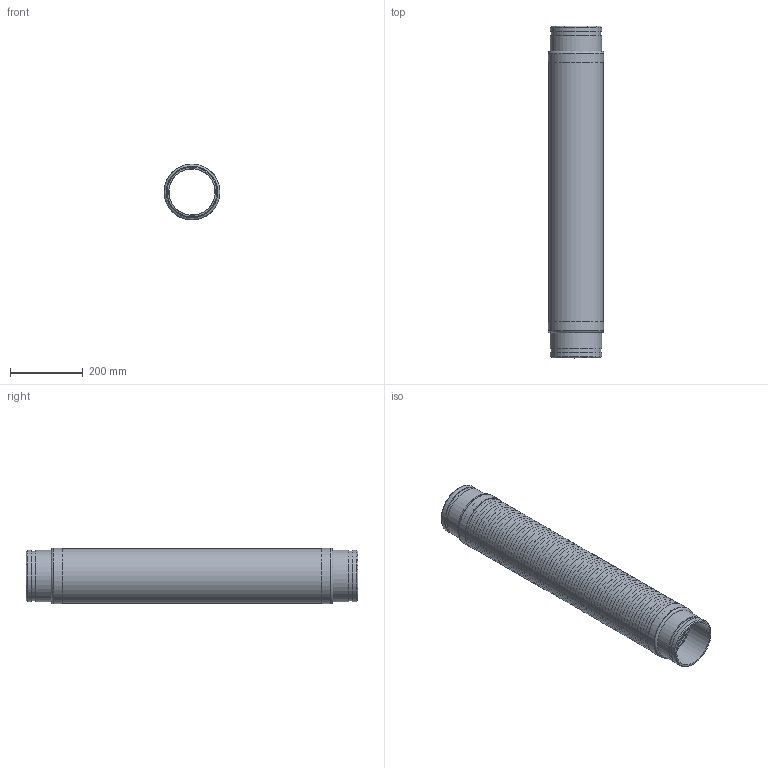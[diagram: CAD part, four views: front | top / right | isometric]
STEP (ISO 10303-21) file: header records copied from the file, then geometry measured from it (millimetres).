
FILE_DESCRIPTION((''),'2;1');
FILE_NAME('C:\2012_Work\Designs\GWN\GWN-5x36.stp','2013-08-13T13:09:07',('KShiels'),(''),'Autodesk Inventor 2012','Autodesk Inventor 2012','');
FILE_SCHEMA(('AUTOMOTIVE_DESIGN { 1 0 10303 214 1 1 1 1 }'));
Length unit declared in the file: inch
Products named in the file (6): GWN-5x36; GWN-5x36_Welds; A-30113-4_5in_GN-BRAID; A-30113-4_5in_GN-BELLOWS; A-30113-4_5in_GN-BRAID-COLLAR; A-30113-4_5in_GN-GROOVED_NIPPLE
Assembly tree (7 placements, depth 2):
  GWN-5x36
    GWN-5x36_Welds
    A-30113-4_5in_GN-BRAID
    A-30113-4_5in_GN-BELLOWS
    A-30113-4_5in_GN-BRAID-COLLAR  x2
    A-30113-4_5in_GN-GROOVED_NIPPLE  x2
Bounding box: 153.51 x 914.4 x 153.51 mm (x, y, z)
Volume: 1008655.9 mm3; surface area: 2720954.1 mm2
Topology: 8 solids, 8 shells, 616 faces, 934 edges, 624 vertices
Faces by surface type: plane 306, torus 290, cylinder 16, bspline 2, cone 2
Full cylindrical faces by diameter (mm): 128.181 x2, 137.02 x2, 141.288 x6, 150.114 x1, 151.13 x3, 153.511 x2
Entity records: 12915 total; most frequent: CARTESIAN_POINT 2436, DIRECTION 2426, ORIENTED_EDGE 1218, AXIS2_PLACEMENT_3D 1213, EDGE_LOOP 1204, EDGE_CURVE 609, VERTEX_POINT 607, FACE_OUTER_BOUND 603
